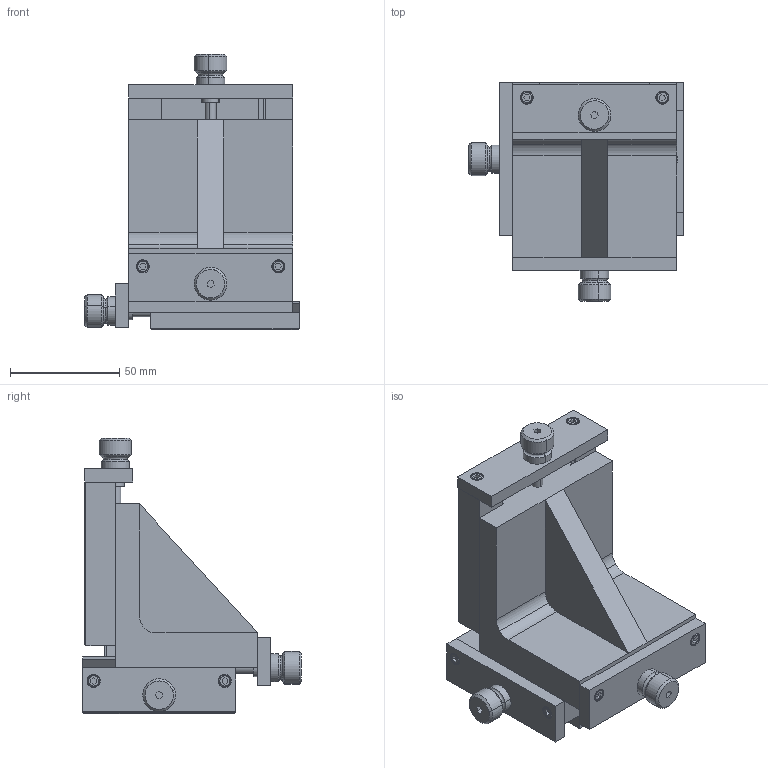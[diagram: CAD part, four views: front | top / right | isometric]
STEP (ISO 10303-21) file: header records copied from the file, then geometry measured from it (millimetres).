
FILE_DESCRIPTION(('STEP AP214'),'1');
FILE_NAME('tmp0.stp','2020-10-08T14:10:30',(' '),(' '),'Spatial InterOp 3D',' ',' ');
FILE_SCHEMA(('automotive_design'));
Length unit declared in the file: millimetre
Products named in the file (19): C75A_StepAP203|NONE#402.795.00;NONE; C75A_StepAP203|NONE#DIN_912;NONE; C75A_StepAP203|NONE#402.798.00;NONE; C75A_StepAP203|NONE#402.805.00;NONE; C75A_StepAP203|NONE#402.803.00;NONE; C75A_StepAP203|NONE#402.807.00;NONE; C75A_StepAP203|NONE#402.794.00;NONE; C75A_StepAP203|NONE#402.792.00;NONE; C75A_StepAP203|NONE#402.799.00;NONE; C75A_StepAP203|NONE#402.809.00;NONE
Bounding box: 98 x 100 x 126 mm (x, y, z)
Volume: 357110.7 mm3; surface area: 105262.1 mm2
Topology: 19 solids, 19 shells, 468 faces, 1102 edges, 694 vertices
Faces by surface type: plane 226, cylinder 168, cone 50, torus 24
Entity records: 18307 total; most frequent: CARTESIAN_POINT 3133, DIRECTION 2374, ORIENTED_EDGE 2164, EDGE_CURVE 1082, AXIS2_PLACEMENT_3D 855, VERTEX_POINT 694, LINE 664, VECTOR 664
